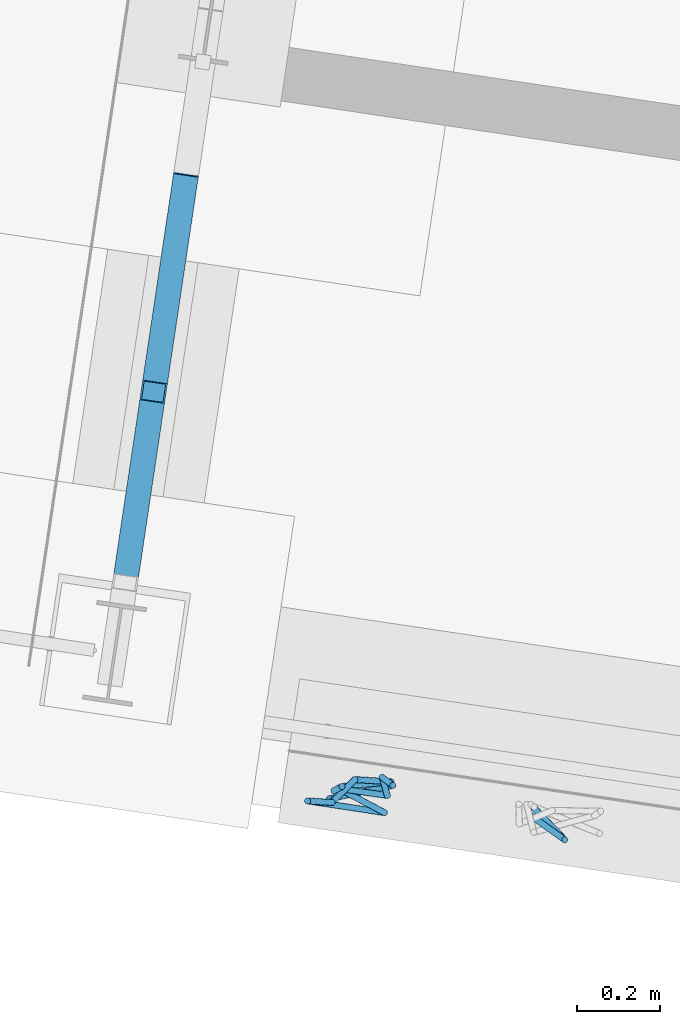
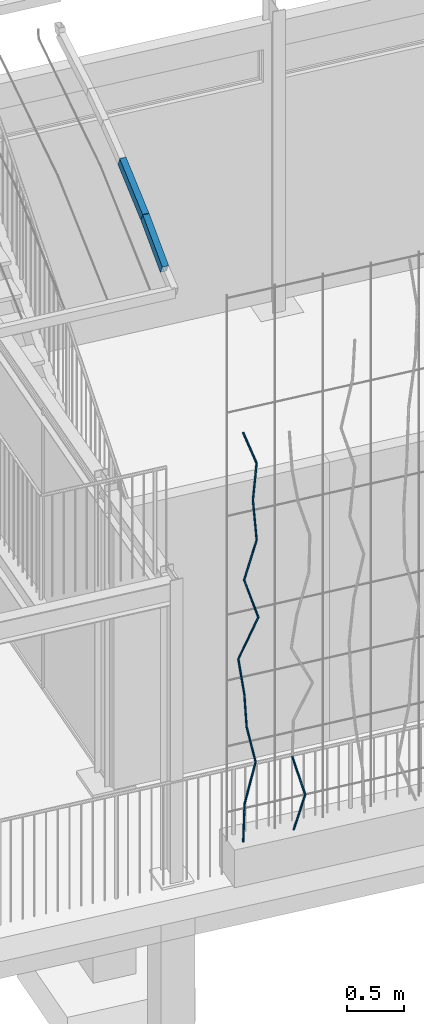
# One storey, part 109 of 142: 15 members, 2 elements without a shape of their own.
"""IFC4 building model written with IfcOpenShell, lengths in metres."""

from ifc_helpers import new_model, si_unit, direction, frame, origin_with_axes, place, context, subcontext, project, spatial, hollow_rectangle, circle, extrude, material, material_profile, profile_set, profile_usage, type_object, element, aggregate, save


model = new_model("IFC4")

# Units and contexts
model_context = context("Model", 3, precision=1e-05, world=origin_with_axes(), true_north=direction((0.0, 1.0)))
body_context = subcontext(model_context, "Body", "Model", "MODEL_VIEW")
ifc_project = project(units=[si_unit("AREAUNIT", "SQUARE_METRE"), si_unit("VOLUMEUNIT", "CUBIC_METRE"), si_unit("LENGTHUNIT", "METRE")], contexts=[model_context])

# Site, building, storey
site_placement = place(None, origin_with_axes())
site = spatial("IfcSite", under=ifc_project, at=site_placement, Name="Lares · Rua das Mercês · artigo 4771")
building_placement = place(site_placement, frame((15.0, 9.7, 14.65), z_axis=(0.0, 0.0, 1.0), x_axis=(0.989015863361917, -0.147809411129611, 0.0)))
building = spatial("IfcBuilding", under=site, at=building_placement, Name="Casa Sobreposta")
storey_placement = place(building_placement, origin_with_axes())
storey = spatial("IfcBuildingStorey", under=building, at=storey_placement, Name="00 · Habitação e estacionamento", Elevation=14.65)

# Assembly, members
assembly_1_placement = place(storey_placement, origin_with_axes())
assembly_1 = element("IfcElementAssembly", 1, at=assembly_1_placement, inside=storey, Name="Pérgola · prolongamento da estufa 6 m", ObjectType="PERGOLA_GREENHOUSE_EXTENSION", PredefinedType="USERDEFINED")
ifc_material_1 = material(Name="Aço pintado / Stahl lackiert", Category="steel")
ifc_material_profile_1 = material_profile(ifc_material_1, hollow_rectangle(XDim=0.06, YDim=0.1, WallThickness=0.004))
ifc_profile_set_1 = profile_set([ifc_material_profile_1], Name="RHS100x60x4")
ifc_profile_usage_1 = profile_usage(ifc_profile_set_1)
member_type_1 = type_object("IfcMemberType", Name="RHS100x60x4 / steel", PredefinedType="NOTDEFINED", material=ifc_profile_set_1)
member_1_placement = place(assembly_1_placement, frame((0.0, -1.26765509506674, 6.32392631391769), z_axis=(0.0, 0.878851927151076, 0.477094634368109), x_axis=(1.0, 0.0, 0.0)))
member_1 = element("IfcMember", 2, at=member_1_placement, type_object=member_type_1, material=ifc_profile_usage_1, Name="Pérgola · arco contínuo com a estufa", context=body_context, shape_type="SweptSolid", body=[
    extrude(hollow_rectangle(XDim=0.06, YDim=0.1, WallThickness=0.004), origin_with_axes(), (0.0, 0.0, 1.0), 0.52863528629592),
])
ifc_profile_usage_2 = profile_usage(ifc_profile_set_1)
member_2_placement = place(assembly_1_placement, frame((0.0, -0.803062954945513, 6.57613537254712), z_axis=(0.0, 0.915885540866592, 0.401439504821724), x_axis=(1.0, 0.0, 0.0)))
member_2 = element("IfcMember", 3, at=member_2_placement, type_object=member_type_1, material=ifc_profile_usage_2, Name="Pérgola · arco contínuo com a estufa", context=body_context, shape_type="SweptSolid", body=[
    extrude(hollow_rectangle(XDim=0.06, YDim=0.1, WallThickness=0.004), origin_with_axes(), (0.0, 0.0, 1.0), 0.596771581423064),
])
aggregate(assembly_1, [member_1, member_2])

assembly_2_placement = place(storey_placement, origin_with_axes())
assembly_2 = element("IfcElementAssembly", 4, at=assembly_2_placement, inside=storey, Name="Fachada sul e pátio · estrutura e trepadeiras", ObjectType="LIVING_SHADE_TRELLIS", PredefinedType="USERDEFINED")
ifc_material_2 = material(Name="Ramos de trepadeiras", Category="wood")
ifc_material_profile_2 = material_profile(ifc_material_2, circle(Radius=0.0075))
ifc_profile_set_2 = profile_set([ifc_material_profile_2], Name="D0.015")
ifc_profile_usage_3 = profile_usage(ifc_profile_set_2)
member_type_2 = type_object("IfcMemberType", Name="D0.015 / vine_wood", PredefinedType="NOTDEFINED", material=ifc_profile_set_2)
member_3_placement = place(assembly_2_placement, frame((0.571287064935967, -1.6890751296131, 0.35), z_axis=(0.0449251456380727, 0.0325114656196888, 0.99846118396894), x_axis=(0.586266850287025, -0.810118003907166, 0.0)))
member_3 = element("IfcMember", 5, at=member_3_placement, type_object=member_type_2, material=ifc_profile_usage_3, Name="Trepadeiras · ramo", context=body_context, shape_type="SweptSolid", body=[
    extrude(circle(Radius=0.0075), origin_with_axes(), (0.0, 0.0, 1.0), 0.398376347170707),
])
ifc_profile_usage_4 = profile_usage(ifc_profile_set_2)
member_4_placement = place(assembly_2_placement, frame((0.589184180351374, -1.67612333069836, 0.747763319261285), z_axis=(0.276858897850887, 0.0690830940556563, 0.958424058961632), x_axis=(0.242101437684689, -0.970250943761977, 0.0)))
member_4 = element("IfcMember", 6, at=member_4_placement, type_object=member_type_2, material=ifc_profile_usage_4, Name="Trepadeiras · ramo", context=body_context, shape_type="SweptSolid", body=[
    extrude(circle(Radius=0.0075), origin_with_axes(), (0.0, 0.0, 1.0), 0.415018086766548),
])
ifc_profile_usage_5 = profile_usage(ifc_profile_set_2)
member_5_placement = place(assembly_2_placement, frame((0.704085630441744, -1.64745259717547, 1.14552663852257), z_axis=(-0.213497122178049, -0.0182552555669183, 0.976773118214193), x_axis=(-0.0851949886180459, 0.996364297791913, 0.0)))
member_5 = element("IfcMember", 7, at=member_5_placement, type_object=member_type_2, material=ifc_profile_usage_5, Name="Trepadeiras · ramo", context=body_context, shape_type="SweptSolid", body=[
    extrude(circle(Radius=0.0075), origin_with_axes(), (0.0, 0.0, 1.0), 0.40722181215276),
])
ifc_profile_usage_6 = profile_usage(ifc_profile_set_2)
member_6_placement = place(assembly_2_placement, frame((0.617144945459, -1.65488653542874, 1.54328995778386), z_axis=(-0.114116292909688, -0.154704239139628, 0.981348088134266), x_axis=(-0.80474844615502, 0.593615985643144, 0.0)))
member_6 = element("IfcMember", 8, at=member_6_placement, type_object=member_type_2, material=ifc_profile_usage_6, Name="Trepadeiras · ramo", context=body_context, shape_type="SweptSolid", body=[
    extrude(circle(Radius=0.0075), origin_with_axes(), (0.0, 0.0, 1.0), 0.405323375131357),
])
ifc_profile_usage_7 = profile_usage(ifc_profile_set_2)
member_7_placement = place(assembly_2_placement, frame((0.570890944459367, -1.71759177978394, 1.94105327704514), z_axis=(-0.145417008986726, -0.0128334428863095, 0.989287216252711), x_axis=(-0.0879110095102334, 0.996128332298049, 0.0)))
member_7 = element("IfcMember", 9, at=member_7_placement, type_object=member_type_2, material=ifc_profile_usage_7, Name="Trepadeiras · ramo", context=body_context, shape_type="SweptSolid", body=[
    extrude(circle(Radius=0.0075), origin_with_axes(), (0.0, 0.0, 1.0), 0.402070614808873),
])
ifc_profile_usage_8 = profile_usage(ifc_profile_set_2)
member_8_placement = place(assembly_2_placement, frame((0.512423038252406, -1.72275173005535, 2.33881659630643), z_axis=(0.425540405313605, -0.000956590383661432, 0.904938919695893), x_axis=(-0.00224793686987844, -0.999997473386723, 0.0)))
member_8 = element("IfcMember", 10, at=member_8_placement, type_object=member_type_2, material=ifc_profile_usage_8, Name="Trepadeiras · ramo", context=body_context, shape_type="SweptSolid", body=[
    extrude(circle(Radius=0.0075), origin_with_axes(), (0.0, 0.0, 1.0), 0.439547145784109),
])
ifc_profile_usage_9 = profile_usage(ifc_profile_set_2)
member_9_placement = place(assembly_2_placement, frame((0.699468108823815, -1.72317219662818, 2.73657991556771), z_axis=(-0.279690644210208, 0.0988134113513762, 0.954991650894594), x_axis=(0.333117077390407, 0.942885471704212, 0.0)))
member_9 = element("IfcMember", 11, at=member_9_placement, type_object=member_type_2, material=ifc_profile_usage_9, Name="Trepadeiras · ramo", context=body_context, shape_type="SweptSolid", body=[
    extrude(circle(Radius=0.0075), origin_with_axes(), (0.0, 0.0, 1.0), 0.416509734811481),
])
ifc_profile_usage_10 = profile_usage(ifc_profile_set_2)
member_10_placement = place(assembly_2_placement, frame((0.582974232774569, -1.6820154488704, 3.134343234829), z_axis=(0.282811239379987, 0.00141958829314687, 0.959174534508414), x_axis=(0.00501949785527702, -0.999987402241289, 0.0)))
member_10 = element("IfcMember", 12, at=member_10_placement, type_object=member_type_2, material=ifc_profile_usage_10, Name="Trepadeiras · ramo", context=body_context, shape_type="SweptSolid", body=[
    extrude(circle(Radius=0.0075), origin_with_axes(), (0.0, 0.0, 1.0), 0.414693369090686),
])
ifc_profile_usage_11 = profile_usage(ifc_profile_set_2)
member_11_placement = place(assembly_2_placement, frame((0.700254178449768, -1.68142675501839, 3.53210655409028), z_axis=(-0.0466461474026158, 0.103318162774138, 0.993553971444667), x_axis=(0.911415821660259, 0.411486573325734, 0.0)))
member_11 = element("IfcMember", 13, at=member_11_placement, type_object=member_type_2, material=ifc_profile_usage_11, Name="Trepadeiras · ramo", context=body_context, shape_type="SweptSolid", body=[
    extrude(circle(Radius=0.0075), origin_with_axes(), (0.0, 0.0, 1.0), 0.400343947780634),
])
ifc_profile_usage_12 = profile_usage(ifc_profile_set_2)
member_12_placement = place(assembly_2_placement, frame((0.681579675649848, -1.64006395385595, 3.92986987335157), z_axis=(0.0709561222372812, -0.0384390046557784, 0.996738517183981), x_axis=(-0.476325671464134, -0.879268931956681, 0.0)))
member_12 = element("IfcMember", 14, at=member_12_placement, type_object=member_type_2, material=ifc_profile_usage_12, Name="Trepadeiras · ramo", context=body_context, shape_type="SweptSolid", body=[
    extrude(circle(Radius=0.0075), origin_with_axes(), (0.0, 0.0, 1.0), 0.399064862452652),
])
ifc_profile_usage_13 = profile_usage(ifc_profile_set_2)
member_13_placement = place(assembly_2_placement, frame((0.709895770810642, -1.65540360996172, 4.32763319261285), z_axis=(-0.343609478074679, -0.127449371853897, 0.930424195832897), x_axis=(-0.347762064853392, 0.937582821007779, 0.0)))
member_13 = element("IfcMember", 15, at=member_13_placement, type_object=member_type_2, material=ifc_profile_usage_13, Name="Trepadeiras · ramo", context=body_context, shape_type="SweptSolid", body=[
    extrude(circle(Radius=0.0075), origin_with_axes(), (0.0, 0.0, 1.0), 0.427507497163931),
])
ifc_profile_usage_14 = profile_usage(ifc_profile_set_2)
member_14_placement = place(assembly_2_placement, frame((1.04734269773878, -1.67706195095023, 0.35), z_axis=(0.229015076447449, -0.117080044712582, 0.96635622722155), x_axis=(-0.455197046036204, -0.890390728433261, 0.0)))
member_14 = element("IfcMember", 16, at=member_14_placement, type_object=member_type_2, material=ifc_profile_usage_14, Name="Trepadeiras · ramo", context=body_context, shape_type="SweptSolid", body=[
    extrude(circle(Radius=0.0075), origin_with_axes(), (0.0, 0.0, 1.0), 0.398527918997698),
])
ifc_profile_usage_15 = profile_usage(ifc_profile_set_2)
member_15_placement = place(assembly_2_placement, frame((1.13861159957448, -1.7237216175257, 0.735119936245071), z_axis=(-0.231181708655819, 0.178601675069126, 0.956376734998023), x_axis=(0.611364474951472, 0.791349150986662, 0.0)))
member_15 = element("IfcMember", 17, at=member_15_placement, type_object=member_type_2, material=ifc_profile_usage_15, Name="Trepadeiras · ramo", context=body_context, shape_type="SweptSolid", body=[
    extrude(circle(Radius=0.0075), origin_with_axes(), (0.0, 0.0, 1.0), 0.402686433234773),
])
aggregate(assembly_2, [member_3, member_4, member_5, member_6, member_7, member_8, member_9, member_10, member_11, member_12, member_13, member_14, member_15])

save(model, "model.ifc")
